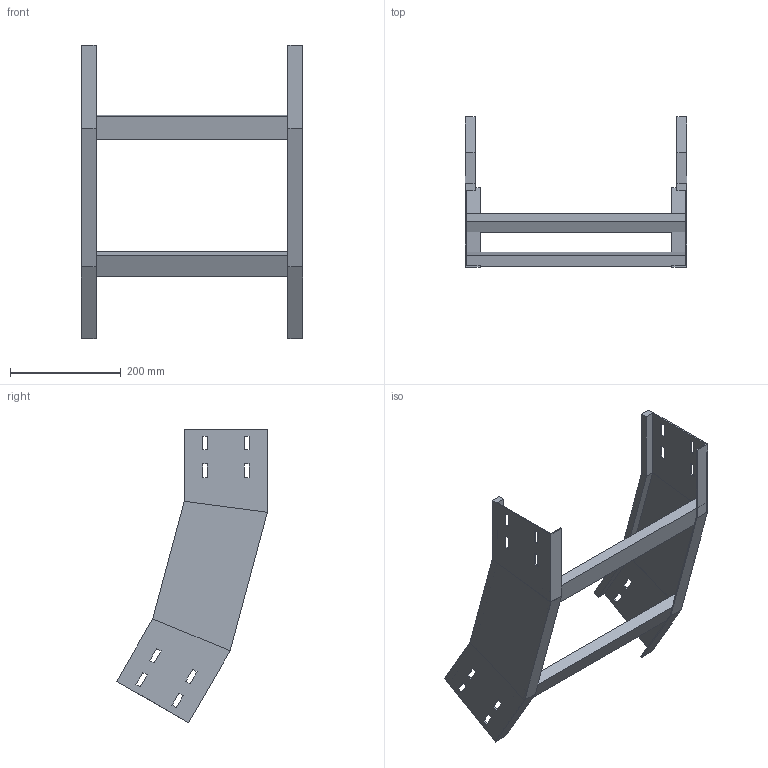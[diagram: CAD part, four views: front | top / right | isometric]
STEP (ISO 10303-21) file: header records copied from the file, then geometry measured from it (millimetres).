
FILE_DESCRIPTION (( 'STEP AP214' ), '1' );
FILE_NAME ('32J5F400.step', '2025-02-21T16:25:46', ( '' ), ( '' ), 'SwSTEP 2.0', 'SolidWorks 2023', '' );
FILE_SCHEMA (( 'AUTOMOTIVE_DESIGN' ));
Length unit declared in the file: millimetre
Products named in the file (3): TRAVERSINO_400; LONGH.SALITA_30°_H150_R500; 32J5F400
Assembly tree (4 placements, depth 2):
  32J5F400
    LONGH.SALITA_30°_H150_R500  x2
    TRAVERSINO_400  x2
Bounding box: 400 x 271.94 x 530.08 mm (x, y, z)
Volume: 1187406.5 mm3; surface area: 498844.7 mm2
Topology: 4 solids, 4 shells, 128 faces, 328 edges, 208 vertices
Faces by surface type: plane 128
Entity records: 2016 total; most frequent: CARTESIAN_POINT 339, ORIENTED_EDGE 328, DIRECTION 306, LINE 164, EDGE_CURVE 164, VECTOR 164, VERTEX_POINT 104, EDGE_LOOP 80
